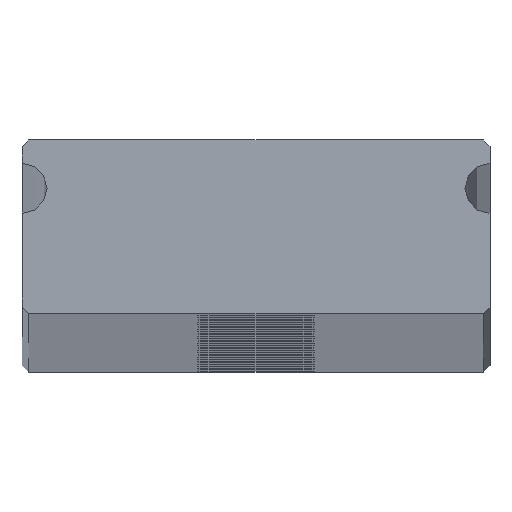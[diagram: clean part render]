
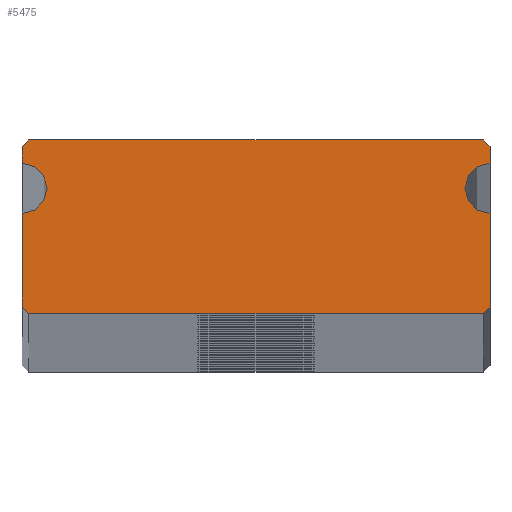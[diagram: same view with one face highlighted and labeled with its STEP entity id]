
A CAD part, top view. The second image highlights one B-rep face of the part: STEP entity #5475.
In plain terms, the highlighted planar face has unit normal (0, 0, 1).
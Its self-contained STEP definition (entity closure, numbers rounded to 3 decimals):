
#149 = EDGE_CURVE ( 'NONE', #1551, #3821, #1914, .T. ) ;
#246 = AXIS2_PLACEMENT_3D ( 'NONE', #1584, #3623, #3352 ) ;
#275 = ORIENTED_EDGE ( 'NONE', *, *, #329, .T. ) ;
#297 = DIRECTION ( 'NONE',  ( 0., 0., -1. ) ) ;
#329 = EDGE_CURVE ( 'NONE', #5457, #5306, #3001, .T. ) ;
#345 = DIRECTION ( 'NONE',  ( 0., 1., 0. ) ) ;
#411 = CARTESIAN_POINT ( 'NONE',  ( -6.8, -2.711, 1000. ) ) ;
#435 = ORIENTED_EDGE ( 'NONE', *, *, #4659, .T. ) ;
#515 = DIRECTION ( 'NONE',  ( 0., -1., 0. ) ) ;
#615 = AXIS2_PLACEMENT_3D ( 'NONE', #772, #297, #2014 ) ;
#633 = CARTESIAN_POINT ( 'NONE',  ( 6.8, -2.711, 1000. ) ) ;
#640 = EDGE_CURVE ( 'NONE', #1442, #1551, #5106, .T. ) ;
#664 = LINE ( 'NONE', #2839, #4836 ) ;
#768 = VECTOR ( 'NONE', #345, 1000. ) ;
#772 = CARTESIAN_POINT ( 'NONE',  ( 7., 1.039, 1000. ) ) ;
#908 = ORIENTED_EDGE ( 'NONE', *, *, #1015, .T. ) ;
#988 = DIRECTION ( 'NONE',  ( 0., 0., -1. ) ) ;
#992 = ORIENTED_EDGE ( 'NONE', *, *, #5323, .T. ) ;
#1015 = EDGE_CURVE ( 'NONE', #1822, #3610, #4147, .T. ) ;
#1053 = CARTESIAN_POINT ( 'NONE',  ( 7., 2.289, 1000. ) ) ;
#1102 = CARTESIAN_POINT ( 'NONE',  ( 7., 1.789, 1000. ) ) ;
#1182 = LINE ( 'NONE', #1102, #768 ) ;
#1196 = CARTESIAN_POINT ( 'NONE',  ( -7., 1.039, 1000. ) ) ;
#1210 = PLANE ( 'NONE',  #246 ) ;
#1304 = EDGE_CURVE ( 'NONE', #5132, #1822, #3289, .T. ) ;
#1305 = CARTESIAN_POINT ( 'NONE',  ( -7., -2.511, 1000. ) ) ;
#1307 = DIRECTION ( 'NONE',  ( -0.707, 0.707, 0. ) ) ;
#1321 = EDGE_CURVE ( 'NONE', #5306, #4706, #664, .T. ) ;
#1427 = CARTESIAN_POINT ( 'NONE',  ( 6.25, 1.039, 1000. ) ) ;
#1442 = VERTEX_POINT ( 'NONE', #2467 ) ;
#1445 = CIRCLE ( 'NONE', #4589, 0.75 ) ;
#1551 = VERTEX_POINT ( 'NONE', #1427 ) ;
#1565 = VECTOR ( 'NONE', #4994, 1000. ) ;
#1570 = DIRECTION ( 'NONE',  ( 0., 0., -1. ) ) ;
#1584 = CARTESIAN_POINT ( 'NONE',  ( -7., 1.039, 1000. ) ) ;
#1659 = CARTESIAN_POINT ( 'NONE',  ( -7., -2.511, 1000. ) ) ;
#1679 = VECTOR ( 'NONE', #4952, 1000. ) ;
#1822 = VERTEX_POINT ( 'NONE', #3731 ) ;
#1914 = CIRCLE ( 'NONE', #4964, 0.75 ) ;
#1981 = CARTESIAN_POINT ( 'NONE',  ( -7., 1.789, 1000. ) ) ;
#1988 = VECTOR ( 'NONE', #5009, 1000. ) ;
#1993 = DIRECTION ( 'NONE',  ( 1., 0., 0. ) ) ;
#2007 = FACE_OUTER_BOUND ( 'NONE', #4401, .T. ) ;
#2014 = DIRECTION ( 'NONE',  ( 1., 0., 0. ) ) ;
#2158 = LINE ( 'NONE', #5147, #3456 ) ;
#2305 = CARTESIAN_POINT ( 'NONE',  ( 7., -2.511, 1000. ) ) ;
#2363 = LINE ( 'NONE', #3290, #1988 ) ;
#2435 = DIRECTION ( 'NONE',  ( 0.707, 0.707, 0. ) ) ;
#2467 = CARTESIAN_POINT ( 'NONE',  ( 7., 0.289, 1000. ) ) ;
#2531 = VECTOR ( 'NONE', #3031, 1000. ) ;
#2605 = CARTESIAN_POINT ( 'NONE',  ( -7., 2.289, 1000. ) ) ;
#2659 = CARTESIAN_POINT ( 'NONE',  ( -7., 0.289, 1000. ) ) ;
#2767 = CARTESIAN_POINT ( 'NONE',  ( 6.8, 2.489, 1000. ) ) ;
#2807 = CARTESIAN_POINT ( 'NONE',  ( 7., 1.789, 1000. ) ) ;
#2839 = CARTESIAN_POINT ( 'NONE',  ( -6.8, -2.711, 1000. ) ) ;
#2899 = ORIENTED_EDGE ( 'NONE', *, *, #1321, .T. ) ;
#3001 = LINE ( 'NONE', #1305, #2531 ) ;
#3011 = EDGE_CURVE ( 'NONE', #4808, #3775, #1445, .T. ) ;
#3031 = DIRECTION ( 'NONE',  ( 0.707, -0.707, 0. ) ) ;
#3106 = EDGE_CURVE ( 'NONE', #3382, #1442, #2363, .T. ) ;
#3181 = CARTESIAN_POINT ( 'NONE',  ( 6.8, 2.489, 1000. ) ) ;
#3211 = CARTESIAN_POINT ( 'NONE',  ( 7., 1.039, 1000. ) ) ;
#3248 = ORIENTED_EDGE ( 'NONE', *, *, #640, .T. ) ;
#3273 = CARTESIAN_POINT ( 'NONE',  ( -6.8, 2.489, 1000. ) ) ;
#3289 = LINE ( 'NONE', #3181, #1679 ) ;
#3290 = CARTESIAN_POINT ( 'NONE',  ( 7., -2.511, 1000. ) ) ;
#3314 = VECTOR ( 'NONE', #2435, 1000. ) ;
#3349 = EDGE_CURVE ( 'NONE', #3610, #4808, #5292, .T. ) ;
#3352 = DIRECTION ( 'NONE',  ( 1., 0., 0. ) ) ;
#3382 = VERTEX_POINT ( 'NONE', #2305 ) ;
#3385 = CARTESIAN_POINT ( 'NONE',  ( -7., 0.289, 1000. ) ) ;
#3456 = VECTOR ( 'NONE', #1307, 1000. ) ;
#3610 = VERTEX_POINT ( 'NONE', #2605 ) ;
#3623 = DIRECTION ( 'NONE',  ( 0., 0., 1. ) ) ;
#3731 = CARTESIAN_POINT ( 'NONE',  ( -6.8, 2.489, 1000. ) ) ;
#3775 = VERTEX_POINT ( 'NONE', #2659 ) ;
#3821 = VERTEX_POINT ( 'NONE', #2807 ) ;
#3862 = EDGE_CURVE ( 'NONE', #4706, #3382, #4914, .T. ) ;
#3883 = VERTEX_POINT ( 'NONE', #1053 ) ;
#3938 = ORIENTED_EDGE ( 'NONE', *, *, #4839, .T. ) ;
#3982 = ORIENTED_EDGE ( 'NONE', *, *, #3862, .T. ) ;
#4033 = ORIENTED_EDGE ( 'NONE', *, *, #3349, .T. ) ;
#4046 = ORIENTED_EDGE ( 'NONE', *, *, #149, .T. ) ;
#4089 = ORIENTED_EDGE ( 'NONE', *, *, #3106, .T. ) ;
#4147 = LINE ( 'NONE', #3273, #1565 ) ;
#4187 = VECTOR ( 'NONE', #515, 1000. ) ;
#4252 = ORIENTED_EDGE ( 'NONE', *, *, #1304, .T. ) ;
#4372 = LINE ( 'NONE', #3385, #4187 ) ;
#4401 = EDGE_LOOP ( 'NONE', ( #5086, #435, #275, #2899, #3982, #4089, #3248, #4046, #3938, #992, #4252, #908, #4033 ) ) ;
#4582 = DIRECTION ( 'NONE',  ( 1., 0., 0. ) ) ;
#4589 = AXIS2_PLACEMENT_3D ( 'NONE', #1196, #1570, #4582 ) ;
#4659 = EDGE_CURVE ( 'NONE', #3775, #5457, #4372, .T. ) ;
#4706 = VERTEX_POINT ( 'NONE', #4855 ) ;
#4807 = DIRECTION ( 'NONE',  ( 0., -1., 0. ) ) ;
#4808 = VERTEX_POINT ( 'NONE', #1981 ) ;
#4836 = VECTOR ( 'NONE', #1993, 1000. ) ;
#4837 = CARTESIAN_POINT ( 'NONE',  ( -7., 2.289, 1000. ) ) ;
#4839 = EDGE_CURVE ( 'NONE', #3821, #3883, #1182, .T. ) ;
#4842 = VECTOR ( 'NONE', #4807, 1000. ) ;
#4855 = CARTESIAN_POINT ( 'NONE',  ( 6.8, -2.711, 1000. ) ) ;
#4914 = LINE ( 'NONE', #633, #3314 ) ;
#4923 = DIRECTION ( 'NONE',  ( 1., 0., 0. ) ) ;
#4952 = DIRECTION ( 'NONE',  ( -1., 0., 0. ) ) ;
#4964 = AXIS2_PLACEMENT_3D ( 'NONE', #3211, #988, #4923 ) ;
#4994 = DIRECTION ( 'NONE',  ( -0.707, -0.707, 0. ) ) ;
#5009 = DIRECTION ( 'NONE',  ( 0., 1., 0. ) ) ;
#5086 = ORIENTED_EDGE ( 'NONE', *, *, #3011, .T. ) ;
#5106 = CIRCLE ( 'NONE', #615, 0.75 ) ;
#5132 = VERTEX_POINT ( 'NONE', #2767 ) ;
#5147 = CARTESIAN_POINT ( 'NONE',  ( 7., 2.289, 1000. ) ) ;
#5292 = LINE ( 'NONE', #4837, #4842 ) ;
#5306 = VERTEX_POINT ( 'NONE', #411 ) ;
#5323 = EDGE_CURVE ( 'NONE', #3883, #5132, #2158, .T. ) ;
#5457 = VERTEX_POINT ( 'NONE', #1659 ) ;
#5475 = ADVANCED_FACE ( 'NONE', ( #2007 ), #1210, .T. ) ;
